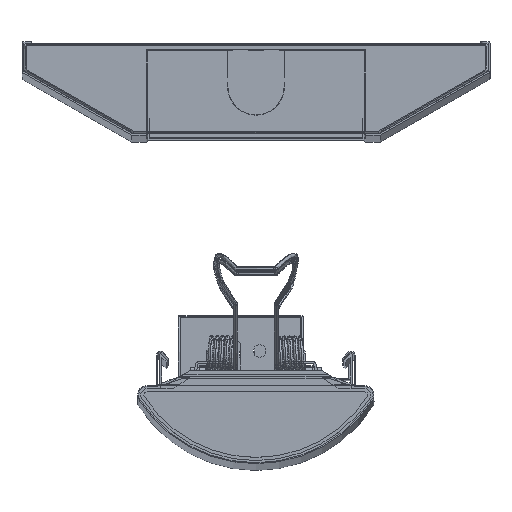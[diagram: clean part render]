
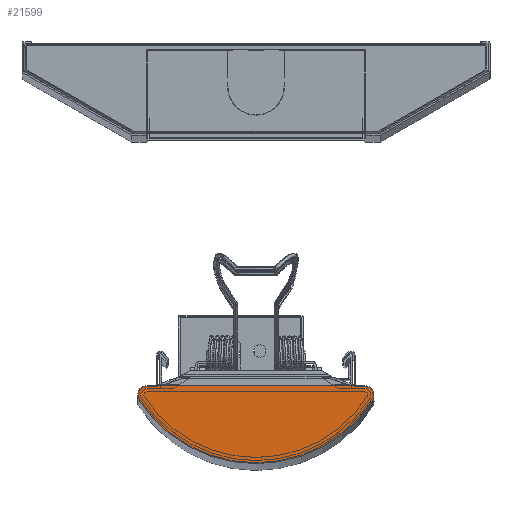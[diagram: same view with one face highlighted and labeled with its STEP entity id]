
A CAD part, top view. The second image highlights one B-rep face of the part: STEP entity #21599.
In plain terms, the highlighted planar face has unit normal (0, 0, 1).
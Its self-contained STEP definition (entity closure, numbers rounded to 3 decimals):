
#218 = PLANE ( 'NONE',  #13737 ) ;
#525 = AXIS2_PLACEMENT_3D ( 'NONE', #3805, #19435, #16760 ) ;
#1007 = VERTEX_POINT ( 'NONE', #25338 ) ;
#2434 = CIRCLE ( 'NONE', #15788, 3. ) ;
#3303 = AXIS2_PLACEMENT_3D ( 'NONE', #23367, #17994, #15319 ) ;
#3805 = CARTESIAN_POINT ( 'NONE',  ( 0., 19.5, 5. ) ) ;
#4194 = CARTESIAN_POINT ( 'NONE',  ( 34.871, -3., 5. ) ) ;
#4670 = ORIENTED_EDGE ( 'NONE', *, *, #19916, .T. ) ;
#6947 = EDGE_CURVE ( 'NONE', #19588, #7834, #14118, .T. ) ;
#7834 = VERTEX_POINT ( 'NONE', #22843 ) ;
#8102 = VECTOR ( 'NONE', #17294, 1000. ) ;
#8835 = CARTESIAN_POINT ( 'NONE',  ( -37.392, -4.627, 5. ) ) ;
#10243 = VERTEX_POINT ( 'NONE', #8835 ) ;
#10877 = CARTESIAN_POINT ( 'NONE',  ( -34.871, 0., 5. ) ) ;
#12889 = AXIS2_PLACEMENT_3D ( 'NONE', #19053, #16380, #13665 ) ;
#13110 = ORIENTED_EDGE ( 'NONE', *, *, #21543, .T. ) ;
#13665 = DIRECTION ( 'NONE',  ( 1., 0., 0. ) ) ;
#13737 = AXIS2_PLACEMENT_3D ( 'NONE', #23914, #21243, #18550 ) ;
#14118 = CIRCLE ( 'NONE', #3303, 3. ) ;
#14255 = EDGE_LOOP ( 'NONE', ( #13110, #20981, #17853, #18468, #4670 ) ) ;
#14567 = CIRCLE ( 'NONE', #525, 44.5 ) ;
#14966 = CIRCLE ( 'NONE', #12889, 3. ) ;
#15319 = DIRECTION ( 'NONE',  ( 1., 0., 0. ) ) ;
#15784 = VERTEX_POINT ( 'NONE', #23349 ) ;
#15788 = AXIS2_PLACEMENT_3D ( 'NONE', #4194, #25181, #22497 ) ;
#16380 = DIRECTION ( 'NONE',  ( 0., 0., 1. ) ) ;
#16648 = FACE_OUTER_BOUND ( 'NONE', #14255, .T. ) ;
#16760 = DIRECTION ( 'NONE',  ( 1., 0., 0. ) ) ;
#17294 = DIRECTION ( 'NONE',  ( -1., 0., 0. ) ) ;
#17853 = ORIENTED_EDGE ( 'NONE', *, *, #6947, .T. ) ;
#17994 = DIRECTION ( 'NONE',  ( 0., 0., 1. ) ) ;
#18468 = ORIENTED_EDGE ( 'NONE', *, *, #24436, .T. ) ;
#18550 = DIRECTION ( 'NONE',  ( 1., 0., 0. ) ) ;
#19053 = CARTESIAN_POINT ( 'NONE',  ( -34.871, -3., 5. ) ) ;
#19435 = DIRECTION ( 'NONE',  ( 0., 0., 1. ) ) ;
#19588 = VERTEX_POINT ( 'NONE', #10877 ) ;
#19916 = EDGE_CURVE ( 'NONE', #10243, #15784, #14567, .T. ) ;
#19954 = CARTESIAN_POINT ( 'NONE',  ( 34.871, 0., 5. ) ) ;
#20981 = ORIENTED_EDGE ( 'NONE', *, *, #25199, .T. ) ;
#21243 = DIRECTION ( 'NONE',  ( 0., 0., 1. ) ) ;
#21543 = EDGE_CURVE ( 'NONE', #15784, #1007, #2434, .T. ) ;
#21599 = ADVANCED_FACE ( 'NONE', ( #16648 ), #218, .T. ) ;
#22497 = DIRECTION ( 'NONE',  ( 1., 0., 0. ) ) ;
#22649 = LINE ( 'NONE', #19954, #8102 ) ;
#22843 = CARTESIAN_POINT ( 'NONE',  ( -37.871, -3., 5. ) ) ;
#23349 = CARTESIAN_POINT ( 'NONE',  ( 37.392, -4.627, 5. ) ) ;
#23367 = CARTESIAN_POINT ( 'NONE',  ( -34.871, -3., 5. ) ) ;
#23914 = CARTESIAN_POINT ( 'NONE',  ( 34.871, -3., 5. ) ) ;
#24436 = EDGE_CURVE ( 'NONE', #7834, #10243, #14966, .T. ) ;
#25181 = DIRECTION ( 'NONE',  ( 0., 0., 1. ) ) ;
#25199 = EDGE_CURVE ( 'NONE', #1007, #19588, #22649, .T. ) ;
#25338 = CARTESIAN_POINT ( 'NONE',  ( 34.871, 0., 5. ) ) ;
